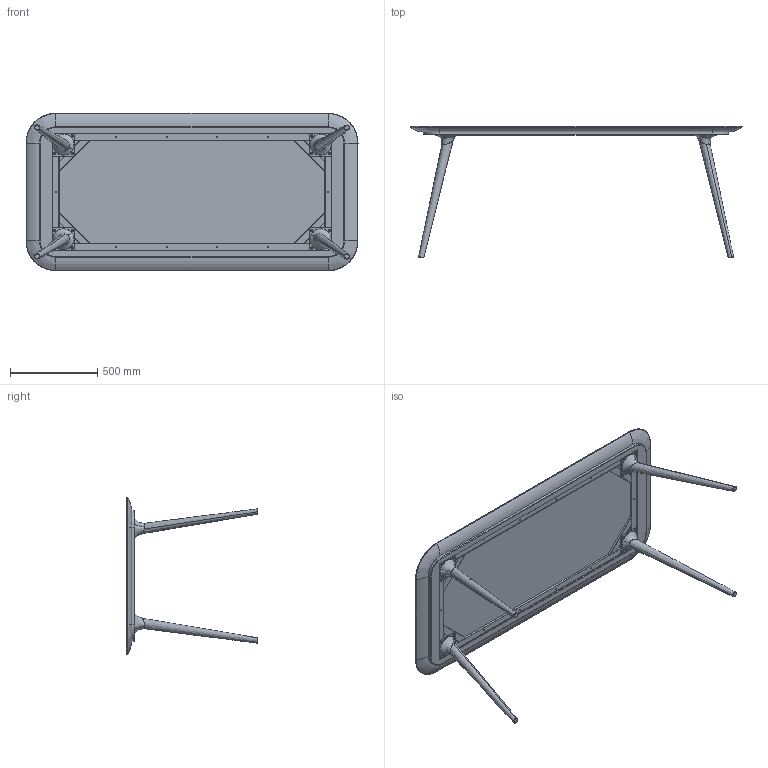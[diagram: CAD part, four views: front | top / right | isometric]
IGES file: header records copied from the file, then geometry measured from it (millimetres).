
Start section: SolidWorks IGES file using analytic representation for surfaces
Global section: file name: P:\Corporate Identity\4_Product_Content\2d3ddag_2014\Zio Dining Table\3D\Zio_Dining_Table_190x90.IGS; native system: SolidWorks 2014; preprocessor: SolidWorks 2014; author: PaulPD; date: 140828.102627; units: millimetre
Bounding box: 1900.46 x 749.96 x 900.44 mm (x, y, z)
Surface area: 6064485.8 mm2 (no closed solid volume)
Topology: 0 solids, 0 shells, 579 faces, 8226 edges, 8166 vertices
Faces by surface type: revolution 413, bspline 166
